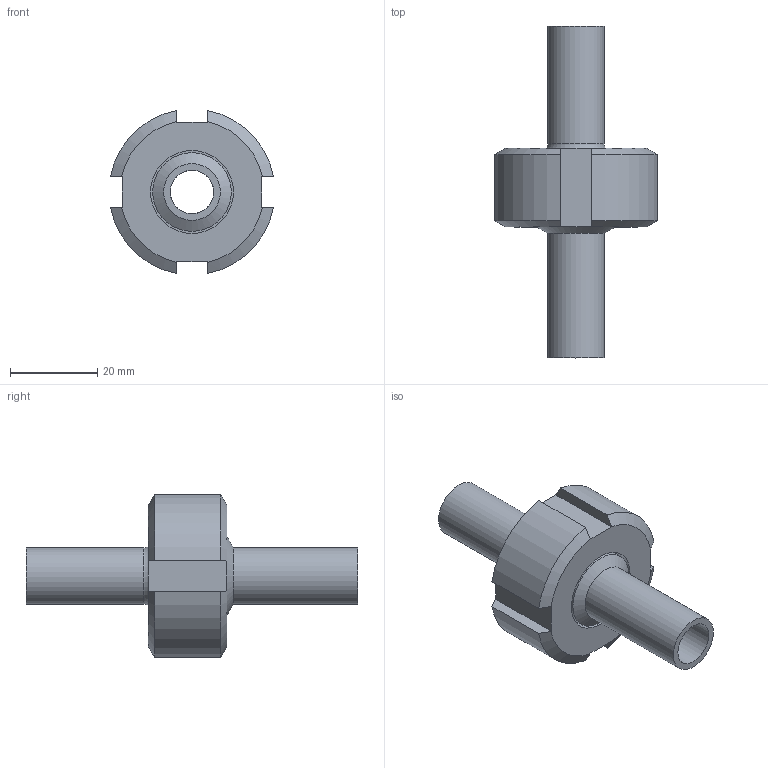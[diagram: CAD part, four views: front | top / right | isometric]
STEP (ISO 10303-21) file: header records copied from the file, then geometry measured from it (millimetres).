
FILE_DESCRIPTION(/* description */ ('Aseptik_Rohrverbindung_DIN 11864-1-A_13x1,50_L76'),/* implementation_level */ '2;1');
FILE_NAME(/* name */ 'L:\Normteile\N0024 - Rohrverbindungen\N0024_002 - DIN11864\N0024_002_001 - geschraubt\N0024_002_001\Step Marketing\DIN11864-1-A_13x1,50_L76.stp',/* time_stamp */ '2021-08-31T09:43:28+02:00',/* author */ ('Csasse'),/* organization */ ('Dockweiler AG'),/* preprocessor_version */ 'ST-DEVELOPER v18',/* originating_system */ 'Autodesk Inventor 2020',/* authorisation */ '');
FILE_SCHEMA (('AUTOMOTIVE_DESIGN { 1 0 10303 214 3 1 1 }'));
Length unit declared in the file: millimetre
Products named in the file (5): N0024_002_001_29; N0003_007_001_01; N0003_007_002_02; N0005_005_002_001_00; N0009_009
Assembly tree (4 placements, depth 2):
  N0024_002_001_29
    N0003_007_001_01
    N0003_007_002_02
    N0005_005_002_001_00
    N0009_009
Bounding box: 37.35 x 76 x 37.35 mm (x, y, z)
Volume: 21281.5 mm3; surface area: 13882.3 mm2
Topology: 4 solids, 4 shells, 66 faces, 192 edges, 138 vertices
Faces by surface type: plane 24, cone 16, cylinder 14, torus 12
Full cylindrical faces by diameter (mm): 10 x2, 13 x2, 18 x1, 19 x1, 21.9 x1, 22 x1, 24.825 x1, 28.318 x1
Entity records: 2538 total; most frequent: DIRECTION 444, CARTESIAN_POINT 437, ORIENTED_EDGE 384, AXIS2_PLACEMENT_3D 193, EDGE_CURVE 192, VERTEX_POINT 138, CIRCLE 118, EDGE_LOOP 78
